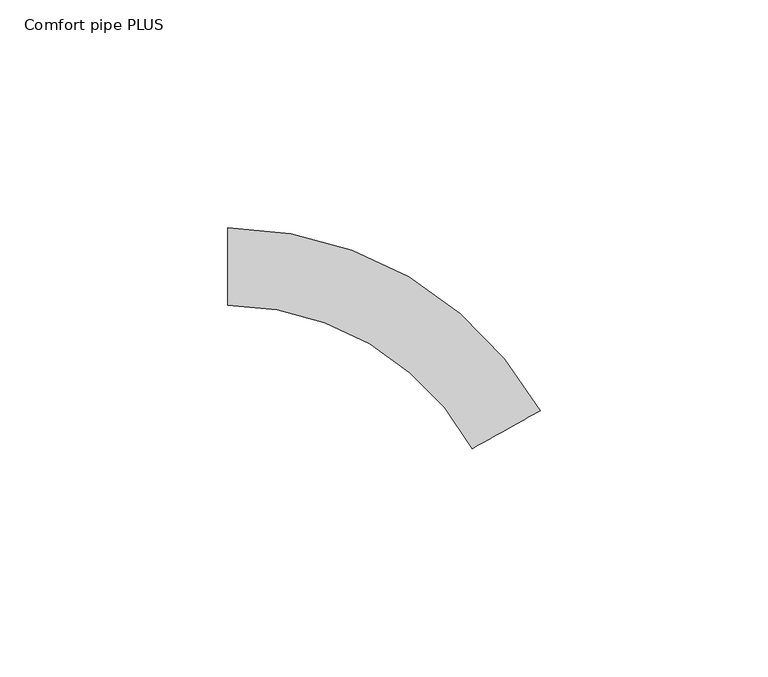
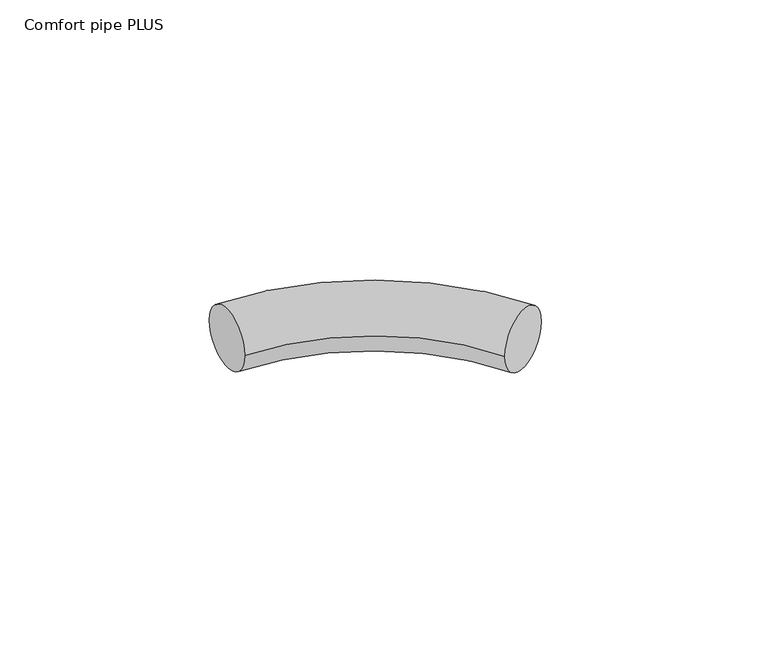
"""IFC4 building model written with IfcOpenShell, lengths in millimetres: pipe fitting geometry, 400_5-_Uponor_curved_Elbow : Comfort pipe PLUS."""

from ifc_helpers import new_model, si_unit, point, frame, origin, place, context, project, spatial, circle_curve, ellipse_curve, trimmed, source, transform, mapped, element, save
from ifc_brep_helpers import plane_surface, revolved_surface, advanced_brep


def comfort_pipe_plus_d926dcd2(model_context):
    return source(origin(), model_context, "Body", "AdvancedBrep", [
        advanced_brep(
        [(-40.9721773, 8.5, 0.0), (-40.9721773, -8.5, 0.0), (27.4733981, -31.5623465, 0.0), (12.6507894, -39.8864243, 0.0)],
        [
            (0, 1, circle_curve(frame((-40.9721773, 0.0, 0.0), z_axis=(-1.0, 0.0, 0.0), x_axis=(0.0, -1.0, 0.0)), 8.5)),
            (1, 0, circle_curve(frame((-40.9721773, 0.0, 0.0), z_axis=(-1.0, 0.0, 0.0), x_axis=(0.0, -1.0, 0.0)), 8.5)),
            (2, 3, circle_curve(frame((20.0620937, -35.7243854, 0.0), z_axis=(0.48965163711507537, -0.8719181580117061, 0.0), x_axis=(-0.8719181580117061, -0.48965163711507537, 0.0)), 8.5)),
            (3, 2, circle_curve(frame((20.0620937, -35.7243854, 0.0), z_axis=(0.48965163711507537, -0.8719181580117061, 0.0), x_axis=(-0.8719181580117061, -0.48965163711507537, 0.0)), 8.5)),
            (2, 0, circle_curve(frame((-40.9721773, -70.0, 0.0), z_axis=(0.0, 0.0, 1.0), x_axis=(0.0, 1.0, 0.0)), 78.5)),
            (1, 3, circle_curve(frame((-40.9721773, -70.0, 0.0), z_axis=(0.0, 0.0, -1.0), x_axis=(0.0, 1.0, 0.0)), 61.5)),
        ],
        [
            plane_surface(frame((-40.9721773, 0.0, 0.0), z_axis=(-1.0, 0.0, 0.0), x_axis=(0.0, 0.0, 1.0))),
            plane_surface(frame((20.0620937, -35.7243854, 0.0), z_axis=(0.4896516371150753, -0.8719181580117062, 0.0), x_axis=(0.0, 0.0, 1.0))),
            revolved_surface(trimmed(ellipse_curve(frame((-40.9721773, 0.0, 0.0), z_axis=(1.0, 0.0, 0.0), x_axis=(0.0, -1.0, 0.0)), 8.5, 8.5), [point((-40.9721773, 8.5, 0.0))], [point((-40.9721773, -8.5, 0.0))], True, "CARTESIAN"), (-40.9721773, -70.0, 0.0), (0.0, 0.0, 1.0)),
            revolved_surface(trimmed(ellipse_curve(frame((-40.9721773, 0.0, 0.0), z_axis=(1.0, 0.0, 0.0), x_axis=(0.0, -1.0, 0.0)), 8.5, 8.5), [point((-40.9721773, -8.5, 0.0))], [point((-40.9721773, 8.5, 0.0))], True, "CARTESIAN"), (-40.9721773, -70.0, 0.0), (0.0, 0.0, 1.0)),
        ],
        [
            (0, [[1, 2]]),
            (1, [[3, 4]]),
            (2, [[-3, 5, -2, 6]]),
            (3, [[-4, -6, -1, -5]]),
        ],
    ),
    ])


if __name__ == "__main__":
    model = new_model("IFC4")
    model_context = context("Model", 3, world=origin())
    ifc_project = project(units=[si_unit("LENGTHUNIT", "METRE", prefix="MILLI")], contexts=[model_context])
    site = spatial("IfcSite", under=ifc_project)
    building = spatial("IfcBuilding", under=site)
    placement = place(None, origin())
    comfort_pipe_plus_shape = comfort_pipe_plus_d926dcd2(model_context)
    element("IfcPipeFitting", 1, ObjectType="400_5-_Uponor_curved_Elbow : Comfort pipe PLUS", at=placement, inside=building, context=model_context, shape_type="MappedRepresentation", body=[
        mapped(comfort_pipe_plus_shape, transform((0.0, 0.0, 0.0), x_axis=(1.0, 0.0, 0.0), y_axis=(0.0, 1.0, 0.0), z_axis=(0.0, 0.0, 1.0))),
    ])
    save(model, "model.ifc")
